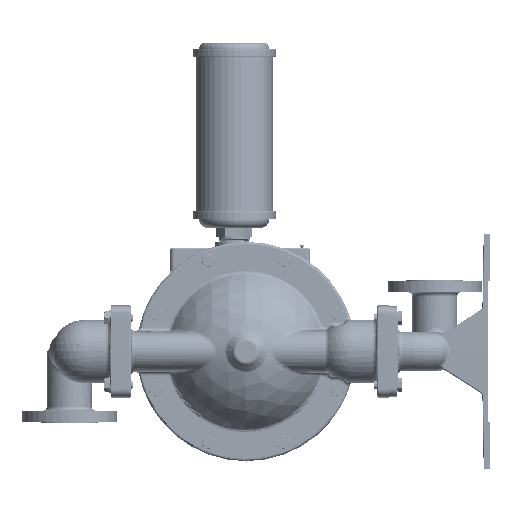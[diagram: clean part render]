
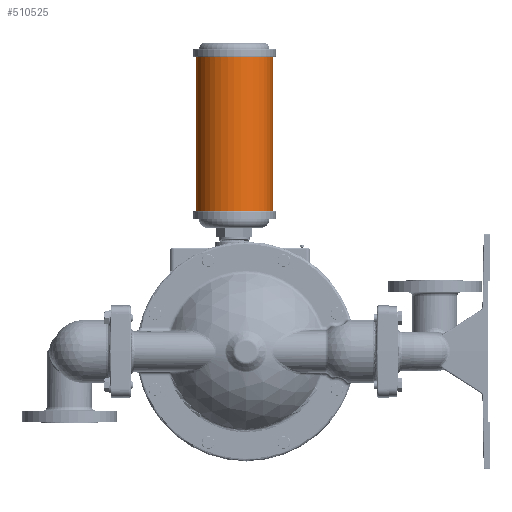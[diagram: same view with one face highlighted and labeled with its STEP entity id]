
A CAD part, left-side view. The second image highlights one B-rep face of the part: STEP entity #510525.
In plain terms, the highlighted cylindrical face has radius 61.722 mm (diameter 123.444 mm), a partial arc.
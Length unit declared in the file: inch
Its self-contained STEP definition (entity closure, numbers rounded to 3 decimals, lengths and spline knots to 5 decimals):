
#262 = CIRCLE ( 'NONE', #294564, 2.43 ) ;
#30382 = VERTEX_POINT ( 'NONE', #479811 ) ;
#37758 = DIRECTION ( 'NONE',  ( 0., -1., 0. ) ) ;
#43255 = VECTOR ( 'NONE', #326303, 39.37008 ) ;
#58012 = EDGE_LOOP ( 'NONE', ( #127444, #350104, #374777, #386909 ) ) ;
#84046 = EDGE_CURVE ( 'NONE', #112577, #505523, #240964, .T. ) ;
#88358 = CARTESIAN_POINT ( 'NONE',  ( 0., 3.18, 8.905 ) ) ;
#89827 = EDGE_CURVE ( 'NONE', #164821, #30382, #262, .T. ) ;
#112577 = VERTEX_POINT ( 'NONE', #88358 ) ;
#114272 = DIRECTION ( 'NONE',  ( 0., 0., 1. ) ) ;
#117799 = CARTESIAN_POINT ( 'NONE',  ( 0., 3.18, 18.685 ) ) ;
#119410 = FACE_OUTER_BOUND ( 'NONE', #58012, .T. ) ;
#123673 = CARTESIAN_POINT ( 'NONE',  ( 0., -1.68, 8.905 ) ) ;
#125195 = EDGE_CURVE ( 'NONE', #505523, #30382, #436990, .T. ) ;
#127444 = ORIENTED_EDGE ( 'NONE', *, *, #84046, .T. ) ;
#131624 = AXIS2_PLACEMENT_3D ( 'NONE', #216664, #145453, #177219 ) ;
#145453 = DIRECTION ( 'NONE',  ( 0., 0., 1. ) ) ;
#153699 = CARTESIAN_POINT ( 'NONE',  ( 0., 0.75, 20.1725 ) ) ;
#155818 = AXIS2_PLACEMENT_3D ( 'NONE', #153699, #477377, #37758 ) ;
#164821 = VERTEX_POINT ( 'NONE', #117799 ) ;
#168671 = DIRECTION ( 'NONE',  ( 0., 1., 0. ) ) ;
#171267 = DIRECTION ( 'NONE',  ( 0., 0., 1. ) ) ;
#177219 = DIRECTION ( 'NONE',  ( 0., 1., 0. ) ) ;
#200150 = VECTOR ( 'NONE', #114272, 39.37008 ) ;
#200971 = CYLINDRICAL_SURFACE ( 'NONE', #155818, 2.43 ) ;
#216664 = CARTESIAN_POINT ( 'NONE',  ( 0., 0.75, 8.905 ) ) ;
#240964 = CIRCLE ( 'NONE', #131624, 2.43 ) ;
#294564 = AXIS2_PLACEMENT_3D ( 'NONE', #487102, #171267, #168671 ) ;
#326303 = DIRECTION ( 'NONE',  ( 0., 0., 1. ) ) ;
#334027 = EDGE_CURVE ( 'NONE', #112577, #164821, #364138, .T. ) ;
#350104 = ORIENTED_EDGE ( 'NONE', *, *, #125195, .T. ) ;
#364138 = LINE ( 'NONE', #437921, #200150 ) ;
#374777 = ORIENTED_EDGE ( 'NONE', *, *, #89827, .F. ) ;
#386909 = ORIENTED_EDGE ( 'NONE', *, *, #334027, .F. ) ;
#436990 = LINE ( 'NONE', #123673, #43255 ) ;
#437921 = CARTESIAN_POINT ( 'NONE',  ( 0., 3.18, 8.905 ) ) ;
#477377 = DIRECTION ( 'NONE',  ( 0., 0., -1. ) ) ;
#479811 = CARTESIAN_POINT ( 'NONE',  ( 0., -1.68, 18.685 ) ) ;
#480629 = CARTESIAN_POINT ( 'NONE',  ( 0., -1.68, 8.905 ) ) ;
#487102 = CARTESIAN_POINT ( 'NONE',  ( 0., 0.75, 18.685 ) ) ;
#505523 = VERTEX_POINT ( 'NONE', #480629 ) ;
#510525 = ADVANCED_FACE ( 'NONE', ( #119410 ), #200971, .T. ) ;
